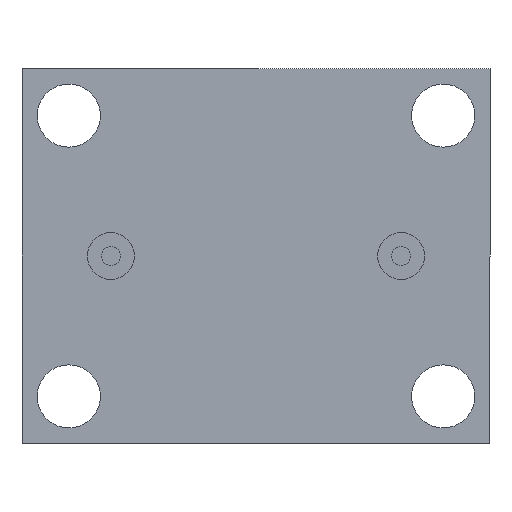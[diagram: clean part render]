
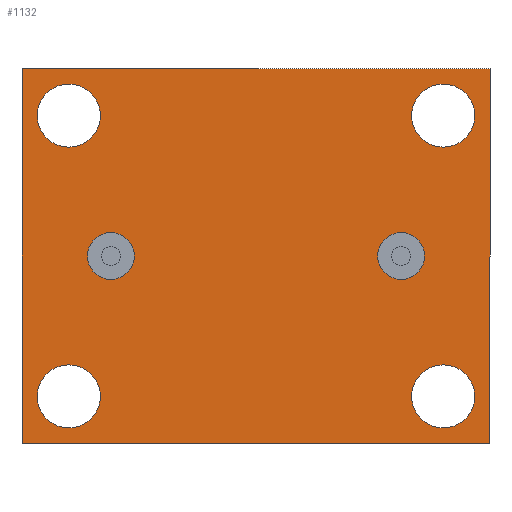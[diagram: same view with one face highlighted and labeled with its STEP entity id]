
A CAD part, front view. The second image highlights one B-rep face of the part: STEP entity #1132.
In plain terms, the highlighted planar face has unit normal (0, -1, 0).
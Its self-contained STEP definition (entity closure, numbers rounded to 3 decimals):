
#8 = VERTEX_POINT ( 'NONE', #1130 ) ;
#9 = AXIS2_PLACEMENT_3D ( 'NONE', #1238, #875, #660 ) ;
#16 = DIRECTION ( 'NONE',  ( 0., 1., 0. ) ) ;
#39 = CARTESIAN_POINT ( 'NONE',  ( -31., 0., -5. ) ) ;
#40 = AXIS2_PLACEMENT_3D ( 'NONE', #744, #1224, #848 ) ;
#44 = VERTEX_POINT ( 'NONE', #39 ) ;
#46 = FACE_BOUND ( 'NONE', #1041, .T. ) ;
#47 = VERTEX_POINT ( 'NONE', #119 ) ;
#57 = CARTESIAN_POINT ( 'NONE',  ( -40., 0., 36.75 ) ) ;
#71 = EDGE_LOOP ( 'NONE', ( #1208, #613 ) ) ;
#72 = CARTESIAN_POINT ( 'NONE',  ( 40., 0., 30. ) ) ;
#82 = ORIENTED_EDGE ( 'NONE', *, *, #976, .T. ) ;
#93 = CIRCLE ( 'NONE', #9, 5. ) ;
#97 = EDGE_LOOP ( 'NONE', ( #1135, #296, #731, #449 ) ) ;
#107 = EDGE_CURVE ( 'NONE', #1022, #580, #232, .T. ) ;
#112 = VERTEX_POINT ( 'NONE', #343 ) ;
#117 = VECTOR ( 'NONE', #330, 1000. ) ;
#119 = CARTESIAN_POINT ( 'NONE',  ( -50., 0., -40. ) ) ;
#127 = FACE_OUTER_BOUND ( 'NONE', #97, .T. ) ;
#130 = CARTESIAN_POINT ( 'NONE',  ( -50., 0., -40. ) ) ;
#132 = EDGE_CURVE ( 'NONE', #465, #665, #876, .T. ) ;
#133 = ORIENTED_EDGE ( 'NONE', *, *, #107, .T. ) ;
#142 = FACE_BOUND ( 'NONE', #71, .T. ) ;
#150 = DIRECTION ( 'NONE',  ( 0., 0., 1. ) ) ;
#153 = EDGE_CURVE ( 'NONE', #1066, #581, #93, .T. ) ;
#155 = AXIS2_PLACEMENT_3D ( 'NONE', #72, #371, #174 ) ;
#158 = DIRECTION ( 'NONE',  ( 0., 0., -1. ) ) ;
#161 = EDGE_LOOP ( 'NONE', ( #1187, #601 ) ) ;
#174 = DIRECTION ( 'NONE',  ( 0., 0., 1. ) ) ;
#207 = ORIENTED_EDGE ( 'NONE', *, *, #725, .T. ) ;
#222 = FACE_BOUND ( 'NONE', #796, .T. ) ;
#232 = CIRCLE ( 'NONE', #670, 6.75 ) ;
#236 = CARTESIAN_POINT ( 'NONE',  ( 50., 0., 40. ) ) ;
#247 = LINE ( 'NONE', #130, #358 ) ;
#256 = DIRECTION ( 'NONE',  ( 0., -1., 0. ) ) ;
#258 = DIRECTION ( 'NONE',  ( 0., 0., 1. ) ) ;
#271 = DIRECTION ( 'NONE',  ( 0., 1., 0. ) ) ;
#272 = CIRCLE ( 'NONE', #155, 6.75 ) ;
#280 = DIRECTION ( 'NONE',  ( 0., 0., 1. ) ) ;
#286 = LINE ( 'NONE', #745, #117 ) ;
#287 = CARTESIAN_POINT ( 'NONE',  ( 40., 0., 23.25 ) ) ;
#296 = ORIENTED_EDGE ( 'NONE', *, *, #430, .F. ) ;
#330 = DIRECTION ( 'NONE',  ( 1., 0., 0. ) ) ;
#343 = CARTESIAN_POINT ( 'NONE',  ( -40., 0., -23.25 ) ) ;
#351 = CARTESIAN_POINT ( 'NONE',  ( 40., 0., -36.75 ) ) ;
#355 = CARTESIAN_POINT ( 'NONE',  ( 50., 0., -40. ) ) ;
#358 = VECTOR ( 'NONE', #1113, 1000. ) ;
#371 = DIRECTION ( 'NONE',  ( 0., 1., 0. ) ) ;
#378 = DIRECTION ( 'NONE',  ( 0., 1., 0. ) ) ;
#379 = ORIENTED_EDGE ( 'NONE', *, *, #673, .F. ) ;
#380 = ORIENTED_EDGE ( 'NONE', *, *, #153, .F. ) ;
#392 = DIRECTION ( 'NONE',  ( 0., 0., 1. ) ) ;
#406 = EDGE_CURVE ( 'NONE', #1172, #1139, #871, .T. ) ;
#409 = VERTEX_POINT ( 'NONE', #941 ) ;
#430 = EDGE_CURVE ( 'NONE', #8, #465, #286, .T. ) ;
#435 = FACE_BOUND ( 'NONE', #161, .T. ) ;
#442 = VECTOR ( 'NONE', #557, 1000. ) ;
#449 = ORIENTED_EDGE ( 'NONE', *, *, #609, .F. ) ;
#450 = FACE_BOUND ( 'NONE', #697, .T. ) ;
#456 = CARTESIAN_POINT ( 'NONE',  ( -50., 0., -40. ) ) ;
#461 = DIRECTION ( 'NONE',  ( 0., 0., -1. ) ) ;
#465 = VERTEX_POINT ( 'NONE', #236 ) ;
#473 = CIRCLE ( 'NONE', #996, 5. ) ;
#482 = EDGE_CURVE ( 'NONE', #1234, #1025, #981, .T. ) ;
#491 = DIRECTION ( 'NONE',  ( 0., 0., 1. ) ) ;
#508 = AXIS2_PLACEMENT_3D ( 'NONE', #1209, #628, #491 ) ;
#511 = EDGE_CURVE ( 'NONE', #44, #409, #473, .T. ) ;
#512 = DIRECTION ( 'NONE',  ( 0., 1., 0. ) ) ;
#557 = DIRECTION ( 'NONE',  ( -1., 0., 0. ) ) ;
#559 = CARTESIAN_POINT ( 'NONE',  ( -40., 0., 30. ) ) ;
#570 = CARTESIAN_POINT ( 'NONE',  ( -40., 0., -30. ) ) ;
#580 = VERTEX_POINT ( 'NONE', #351 ) ;
#581 = VERTEX_POINT ( 'NONE', #872 ) ;
#593 = PLANE ( 'NONE',  #1285 ) ;
#600 = CARTESIAN_POINT ( 'NONE',  ( 31., 0., -5. ) ) ;
#601 = ORIENTED_EDGE ( 'NONE', *, *, #1240, .F. ) ;
#609 = EDGE_CURVE ( 'NONE', #665, #47, #1110, .T. ) ;
#613 = ORIENTED_EDGE ( 'NONE', *, *, #704, .T. ) ;
#628 = DIRECTION ( 'NONE',  ( 0., 1., 0. ) ) ;
#635 = CIRCLE ( 'NONE', #1266, 6.75 ) ;
#645 = VECTOR ( 'NONE', #1057, 1000. ) ;
#660 = DIRECTION ( 'NONE',  ( 0., 0., -1. ) ) ;
#665 = VERTEX_POINT ( 'NONE', #684 ) ;
#670 = AXIS2_PLACEMENT_3D ( 'NONE', #873, #963, #150 ) ;
#673 = EDGE_CURVE ( 'NONE', #581, #1066, #752, .T. ) ;
#679 = CIRCLE ( 'NONE', #1196, 6.75 ) ;
#684 = CARTESIAN_POINT ( 'NONE',  ( 50., 0., -40. ) ) ;
#697 = EDGE_LOOP ( 'NONE', ( #207, #1206 ) ) ;
#700 = EDGE_LOOP ( 'NONE', ( #133, #82 ) ) ;
#704 = EDGE_CURVE ( 'NONE', #1166, #112, #1178, .T. ) ;
#705 = CARTESIAN_POINT ( 'NONE',  ( 0., 0., 0. ) ) ;
#725 = EDGE_CURVE ( 'NONE', #1025, #1234, #635, .T. ) ;
#731 = ORIENTED_EDGE ( 'NONE', *, *, #1226, .F. ) ;
#742 = DIRECTION ( 'NONE',  ( 0., 0., 1. ) ) ;
#744 = CARTESIAN_POINT ( 'NONE',  ( -31., 0., 0. ) ) ;
#745 = CARTESIAN_POINT ( 'NONE',  ( -50., 0., 40. ) ) ;
#746 = CIRCLE ( 'NONE', #40, 5. ) ;
#752 = CIRCLE ( 'NONE', #1118, 5. ) ;
#765 = ORIENTED_EDGE ( 'NONE', *, *, #406, .T. ) ;
#796 = EDGE_LOOP ( 'NONE', ( #986, #765 ) ) ;
#818 = DIRECTION ( 'NONE',  ( 0., 1., 0. ) ) ;
#825 = CARTESIAN_POINT ( 'NONE',  ( -40., 0., -36.75 ) ) ;
#832 = AXIS2_PLACEMENT_3D ( 'NONE', #559, #1241, #970 ) ;
#848 = DIRECTION ( 'NONE',  ( 0., 0., -1. ) ) ;
#853 = AXIS2_PLACEMENT_3D ( 'NONE', #1220, #16, #742 ) ;
#871 = CIRCLE ( 'NONE', #853, 6.75 ) ;
#872 = CARTESIAN_POINT ( 'NONE',  ( 31., 0., 5. ) ) ;
#873 = CARTESIAN_POINT ( 'NONE',  ( 40., 0., -30. ) ) ;
#875 = DIRECTION ( 'NONE',  ( 0., -1., 0. ) ) ;
#876 = LINE ( 'NONE', #355, #645 ) ;
#918 = CARTESIAN_POINT ( 'NONE',  ( 40., 0., -30. ) ) ;
#934 = EDGE_CURVE ( 'NONE', #112, #1166, #984, .T. ) ;
#940 = EDGE_CURVE ( 'NONE', #1139, #1172, #272, .T. ) ;
#941 = CARTESIAN_POINT ( 'NONE',  ( -31., 0., 5. ) ) ;
#959 = DIRECTION ( 'NONE',  ( 0., -1., 0. ) ) ;
#963 = DIRECTION ( 'NONE',  ( 0., 1., 0. ) ) ;
#966 = CARTESIAN_POINT ( 'NONE',  ( -31., 0., 0. ) ) ;
#969 = CARTESIAN_POINT ( 'NONE',  ( 40., 0., -23.25 ) ) ;
#970 = DIRECTION ( 'NONE',  ( 0., 0., 1. ) ) ;
#976 = EDGE_CURVE ( 'NONE', #580, #1022, #679, .T. ) ;
#981 = CIRCLE ( 'NONE', #832, 6.75 ) ;
#984 = CIRCLE ( 'NONE', #508, 6.75 ) ;
#986 = ORIENTED_EDGE ( 'NONE', *, *, #940, .T. ) ;
#996 = AXIS2_PLACEMENT_3D ( 'NONE', #966, #959, #461 ) ;
#1022 = VERTEX_POINT ( 'NONE', #969 ) ;
#1025 = VERTEX_POINT ( 'NONE', #57 ) ;
#1041 = EDGE_LOOP ( 'NONE', ( #380, #379 ) ) ;
#1057 = DIRECTION ( 'NONE',  ( 0., 0., -1. ) ) ;
#1066 = VERTEX_POINT ( 'NONE', #600 ) ;
#1090 = FACE_BOUND ( 'NONE', #700, .T. ) ;
#1110 = LINE ( 'NONE', #456, #442 ) ;
#1113 = DIRECTION ( 'NONE',  ( 0., 0., 1. ) ) ;
#1118 = AXIS2_PLACEMENT_3D ( 'NONE', #1157, #256, #158 ) ;
#1122 = CARTESIAN_POINT ( 'NONE',  ( -40., 0., 23.25 ) ) ;
#1130 = CARTESIAN_POINT ( 'NONE',  ( -50., 0., 40. ) ) ;
#1132 = ADVANCED_FACE ( 'NONE', ( #435, #46, #1090, #222, #450, #142, #127 ), #593, .F. ) ;
#1135 = ORIENTED_EDGE ( 'NONE', *, *, #132, .F. ) ;
#1139 = VERTEX_POINT ( 'NONE', #1186 ) ;
#1157 = CARTESIAN_POINT ( 'NONE',  ( 31., 0., 0. ) ) ;
#1166 = VERTEX_POINT ( 'NONE', #825 ) ;
#1169 = CARTESIAN_POINT ( 'NONE',  ( -40., 0., 30. ) ) ;
#1172 = VERTEX_POINT ( 'NONE', #287 ) ;
#1178 = CIRCLE ( 'NONE', #1180, 6.75 ) ;
#1180 = AXIS2_PLACEMENT_3D ( 'NONE', #570, #271, #258 ) ;
#1186 = CARTESIAN_POINT ( 'NONE',  ( 40., 0., 36.75 ) ) ;
#1187 = ORIENTED_EDGE ( 'NONE', *, *, #511, .F. ) ;
#1196 = AXIS2_PLACEMENT_3D ( 'NONE', #918, #512, #392 ) ;
#1206 = ORIENTED_EDGE ( 'NONE', *, *, #482, .T. ) ;
#1208 = ORIENTED_EDGE ( 'NONE', *, *, #934, .T. ) ;
#1209 = CARTESIAN_POINT ( 'NONE',  ( -40., 0., -30. ) ) ;
#1220 = CARTESIAN_POINT ( 'NONE',  ( 40., 0., 30. ) ) ;
#1224 = DIRECTION ( 'NONE',  ( 0., -1., 0. ) ) ;
#1226 = EDGE_CURVE ( 'NONE', #47, #8, #247, .T. ) ;
#1234 = VERTEX_POINT ( 'NONE', #1122 ) ;
#1238 = CARTESIAN_POINT ( 'NONE',  ( 31., 0., 0. ) ) ;
#1240 = EDGE_CURVE ( 'NONE', #409, #44, #746, .T. ) ;
#1241 = DIRECTION ( 'NONE',  ( 0., 1., 0. ) ) ;
#1266 = AXIS2_PLACEMENT_3D ( 'NONE', #1169, #378, #280 ) ;
#1285 = AXIS2_PLACEMENT_3D ( 'NONE', #705, #818, #1288 ) ;
#1288 = DIRECTION ( 'NONE',  ( 0., 0., 1. ) ) ;
